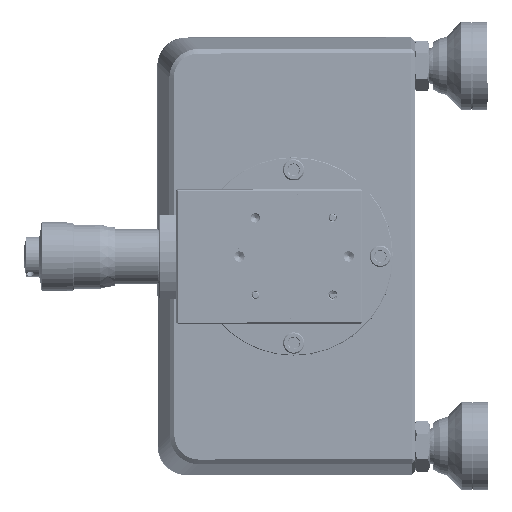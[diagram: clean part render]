
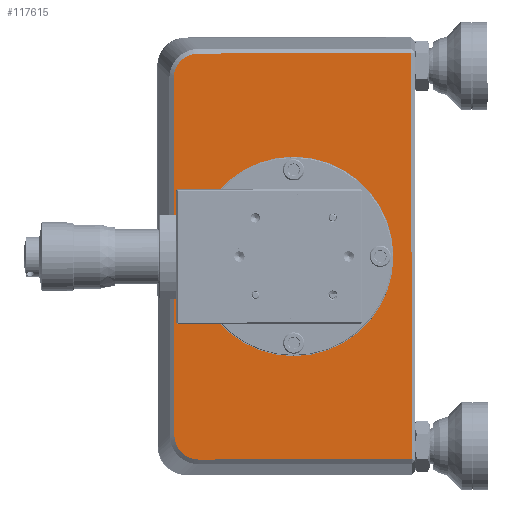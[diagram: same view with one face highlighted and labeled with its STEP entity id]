
A CAD part, left-side view. The second image highlights one B-rep face of the part: STEP entity #117615.
In plain terms, the highlighted planar face has unit normal (-1, -0.002, -0.001).
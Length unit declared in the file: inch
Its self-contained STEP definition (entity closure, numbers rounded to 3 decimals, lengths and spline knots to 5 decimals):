
#7318 = DIRECTION ( 'NONE',  ( -1., -0.002, -0.001 ) ) ;
#11263 = ORIENTED_EDGE ( 'NONE', *, *, #27428, .T. ) ;
#17701 = DIRECTION ( 'NONE',  ( 0.002, -1., 0.001 ) ) ;
#22717 = CARTESIAN_POINT ( 'NONE',  ( -0.09257, -7.32915, -3.05695 ) ) ;
#27076 = CARTESIAN_POINT ( 'NONE',  ( -0.09415, -6.36931, -2.90427 ) ) ;
#27428 = EDGE_CURVE ( 'NONE', #274358, #260055, #30322, .T. ) ;
#27469 = CARTESIAN_POINT ( 'NONE',  ( -0.09556, -6.56848, 0.42222 ) ) ;
#29631 = CARTESIAN_POINT ( 'NONE',  ( -0.09379, -6.54545, -3.05797 ) ) ;
#30322 = LINE ( 'NONE', #112334, #43929 ) ;
#37024 = VERTEX_POINT ( 'NONE', #338084 ) ;
#37424 = B_SPLINE_CURVE_WITH_KNOTS ( 'NONE', 3,
 ( #27469, #263352, #145460, #301735, #419736, #503953, #463094, #199048, #119625, #112018 ),
 .UNSPECIFIED., .F., .F.,
 ( 4, 2, 2, 2, 4 ),
 ( 0., 0.25, 0.5, 0.75, 1. ),
 .UNSPECIFIED. ) ;
#39654 = CARTESIAN_POINT ( 'NONE',  ( -0.09089, -8.39914, -3.05557 ) ) ;
#43929 = VECTOR ( 'NONE', #230219, 39.37008 ) ;
#54898 = VECTOR ( 'NONE', #310228, 39.37008 ) ;
#62916 = CARTESIAN_POINT ( 'NONE',  ( -0.09375, -6.57299, -3.05793 ) ) ;
#72837 = VERTEX_POINT ( 'NONE', #344599 ) ;
#74221 = ORIENTED_EDGE ( 'NONE', *, *, #342991, .T. ) ;
#74257 = EDGE_LOOP ( 'NONE', ( #108809, #199292, #11263, #74221, #332046, #280618 ) ) ;
#91672 = DIRECTION ( 'NONE',  ( -0.001, 0.001, 1. ) ) ;
#92721 = CARTESIAN_POINT ( 'NONE',  ( -0.09556, -6.56848, 0.42222 ) ) ;
#106238 = DIRECTION ( 'NONE',  ( 0.001, -0.001, -1. ) ) ;
#108809 = ORIENTED_EDGE ( 'NONE', *, *, #327267, .T. ) ;
#109083 = CARTESIAN_POINT ( 'NONE',  ( -0.09409, -6.39017, -2.95471 ) ) ;
#112018 = CARTESIAN_POINT ( 'NONE',  ( -0.09578, -6.35983, 0.21303 ) ) ;
#112334 = CARTESIAN_POINT ( 'NONE',  ( -0.0918, -8.39689, -1.31549 ) ) ;
#113895 = PLANE ( 'NONE',  #388714 ) ;
#117615 = ADVANCED_FACE ( 'NONE', ( #341980, #336989 ), #113895, .F. ) ;
#119625 = CARTESIAN_POINT ( 'NONE',  ( -0.09579, -6.35979, 0.24057 ) ) ;
#120838 = CIRCLE ( 'NONE', #169812, 0.855 ) ;
#122392 = CIRCLE ( 'NONE', #408945, 0.855 ) ;
#145460 = CARTESIAN_POINT ( 'NONE',  ( -0.09564, -6.5135, 0.41671 ) ) ;
#149853 = DIRECTION ( 'NONE',  ( -1., -0.002, -0.001 ) ) ;
#165630 = EDGE_CURVE ( 'NONE', #296239, #166089, #37424, .T. ) ;
#166089 = VERTEX_POINT ( 'NONE', #180175 ) ;
#169812 = AXIS2_PLACEMENT_3D ( 'NONE', #358463, #7318, #91672 ) ;
#180175 = CARTESIAN_POINT ( 'NONE',  ( -0.09578, -6.35983, 0.21303 ) ) ;
#190182 = CARTESIAN_POINT ( 'NONE',  ( -0.09498, -6.36181, -1.31813 ) ) ;
#192728 = LINE ( 'NONE', #190182, #506329 ) ;
#197502 = LINE ( 'NONE', #351278, #54898 ) ;
#199048 = CARTESIAN_POINT ( 'NONE',  ( -0.0958, -6.36519, 0.26802 ) ) ;
#199292 = ORIENTED_EDGE ( 'NONE', *, *, #307692, .T. ) ;
#203995 = EDGE_CURVE ( 'NONE', #37024, #219616, #122392, .T. ) ;
#217897 = VECTOR ( 'NONE', #17701, 39.37008 ) ;
#219616 = VERTEX_POINT ( 'NONE', #362591 ) ;
#230219 = DIRECTION ( 'NONE',  ( -0.001, 0.001, 1. ) ) ;
#248287 = ORIENTED_EDGE ( 'NONE', *, *, #460464, .F. ) ;
#249925 = B_SPLINE_CURVE_WITH_KNOTS ( 'NONE', 3,
 ( #419360, #339786, #27076, #109083, #337305, #414326, #260457, #416897, #29631, #62916 ),
 .UNSPECIFIED., .F., .F.,
 ( 4, 2, 2, 2, 4 ),
 ( 0., 0.25, 0.5, 0.75, 1. ),
 .UNSPECIFIED. ) ;
#260055 = VERTEX_POINT ( 'NONE', #389995 ) ;
#260457 = CARTESIAN_POINT ( 'NONE',  ( -0.09393, -6.4675, -3.03184 ) ) ;
#263352 = CARTESIAN_POINT ( 'NONE',  ( -0.0956, -6.54099, 0.42218 ) ) ;
#274358 = VERTEX_POINT ( 'NONE', #39654 ) ;
#280618 = ORIENTED_EDGE ( 'NONE', *, *, #441748, .T. ) ;
#296239 = VERTEX_POINT ( 'NONE', #92721 ) ;
#301019 = CARTESIAN_POINT ( 'NONE',  ( -0.09347, -7.32689, -1.31688 ) ) ;
#301735 = CARTESIAN_POINT ( 'NONE',  ( -0.09571, -6.46305, 0.39585 ) ) ;
#305871 = EDGE_LOOP ( 'NONE', ( #434199, #248287 ) ) ;
#306114 = DIRECTION ( 'NONE',  ( -0.001, 0.001, 1. ) ) ;
#307692 = EDGE_CURVE ( 'NONE', #72837, #274358, #373900, .T. ) ;
#310228 = DIRECTION ( 'NONE',  ( -0.002, 1., -0.001 ) ) ;
#327267 = EDGE_CURVE ( 'NONE', #493018, #72837, #249925, .T. ) ;
#328743 = CARTESIAN_POINT ( 'NONE',  ( -0.09419, -6.3638, -2.84929 ) ) ;
#332046 = ORIENTED_EDGE ( 'NONE', *, *, #165630, .T. ) ;
#336989 = FACE_BOUND ( 'NONE', #305871, .T. ) ;
#337305 = CARTESIAN_POINT ( 'NONE',  ( -0.09405, -6.40569, -2.97793 ) ) ;
#338084 = CARTESIAN_POINT ( 'NONE',  ( -0.09382, -7.38578, -0.4618 ) ) ;
#339786 = CARTESIAN_POINT ( 'NONE',  ( -0.09417, -6.36383, -2.87677 ) ) ;
#341980 = FACE_OUTER_BOUND ( 'NONE', #74257, .T. ) ;
#342991 = EDGE_CURVE ( 'NONE', #260055, #296239, #197502, .T. ) ;
#344599 = CARTESIAN_POINT ( 'NONE',  ( -0.09375, -6.57299, -3.05793 ) ) ;
#351278 = CARTESIAN_POINT ( 'NONE',  ( -0.09438, -7.32463, 0.4232 ) ) ;
#358463 = CARTESIAN_POINT ( 'NONE',  ( -0.09338, -7.38689, -1.3168 ) ) ;
#362591 = CARTESIAN_POINT ( 'NONE',  ( -0.09293, -7.388, -2.1718 ) ) ;
#373900 = LINE ( 'NONE', #22717, #217897 ) ;
#388714 = AXIS2_PLACEMENT_3D ( 'NONE', #301019, #457370, #106238 ) ;
#389995 = CARTESIAN_POINT ( 'NONE',  ( -0.09271, -8.39463, 0.42459 ) ) ;
#408945 = AXIS2_PLACEMENT_3D ( 'NONE', #500775, #149853, #306114 ) ;
#414326 = CARTESIAN_POINT ( 'NONE',  ( -0.09397, -6.44424, -3.01638 ) ) ;
#416897 = CARTESIAN_POINT ( 'NONE',  ( -0.09384, -6.51799, -3.05258 ) ) ;
#419360 = CARTESIAN_POINT ( 'NONE',  ( -0.09419, -6.3638, -2.84929 ) ) ;
#419736 = CARTESIAN_POINT ( 'NONE',  ( -0.09574, -6.43984, 0.38033 ) ) ;
#434199 = ORIENTED_EDGE ( 'NONE', *, *, #203995, .F. ) ;
#441748 = EDGE_CURVE ( 'NONE', #166089, #493018, #192728, .T. ) ;
#457370 = DIRECTION ( 'NONE',  ( 1., 0.002, 0.001 ) ) ;
#460464 = EDGE_CURVE ( 'NONE', #219616, #37024, #120838, .T. ) ;
#463094 = CARTESIAN_POINT ( 'NONE',  ( -0.09579, -6.38593, 0.31852 ) ) ;
#493018 = VERTEX_POINT ( 'NONE', #328743 ) ;
#500775 = CARTESIAN_POINT ( 'NONE',  ( -0.09338, -7.38689, -1.3168 ) ) ;
#502677 = DIRECTION ( 'NONE',  ( 0.001, -0.001, -1. ) ) ;
#503953 = CARTESIAN_POINT ( 'NONE',  ( -0.09578, -6.40138, 0.34178 ) ) ;
#506329 = VECTOR ( 'NONE', #502677, 39.37008 ) ;
